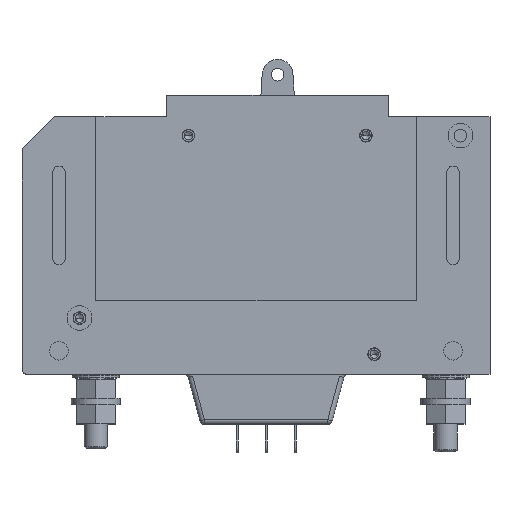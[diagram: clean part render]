
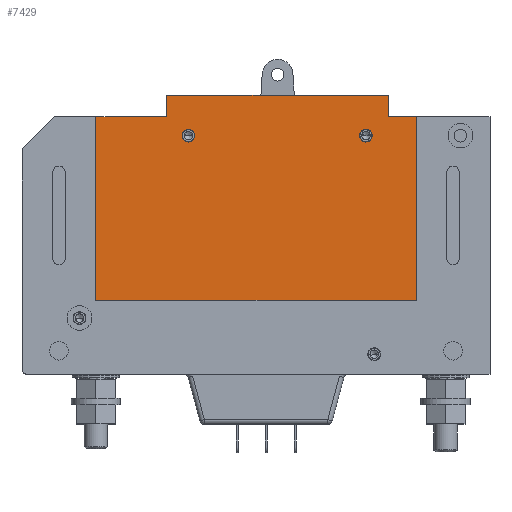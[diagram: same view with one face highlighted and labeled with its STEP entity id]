
A CAD part, top view. The second image highlights one B-rep face of the part: STEP entity #7429.
In plain terms, the highlighted planar face has unit normal (0, 0, 1).
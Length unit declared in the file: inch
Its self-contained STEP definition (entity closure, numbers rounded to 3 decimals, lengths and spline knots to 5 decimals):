
#1347=DIRECTION('',(0.,1.,0.));
#1348=VECTOR('',#1347,1.86);
#1349=CARTESIAN_POINT('',(-1.844,-1.514,0.));
#1350=LINE('',#1349,#1348);
#1351=DIRECTION('',(-1.,0.,0.));
#1352=VECTOR('',#1351,0.719);
#1353=CARTESIAN_POINT('',(-1.125,0.346,0.));
#1354=LINE('',#1353,#1352);
#1355=DIRECTION('',(0.,-1.,0.));
#1356=VECTOR('',#1355,0.22);
#1357=CARTESIAN_POINT('',(-1.125,0.566,0.));
#1358=LINE('',#1357,#1356);
#1359=DIRECTION('',(-1.,0.,0.));
#1360=VECTOR('',#1359,2.25);
#1361=CARTESIAN_POINT('',(1.125,0.566,0.));
#1362=LINE('',#1361,#1360);
#1363=DIRECTION('',(0.,1.,0.));
#1364=VECTOR('',#1363,0.22);
#1365=CARTESIAN_POINT('',(1.125,0.346,0.));
#1366=LINE('',#1365,#1364);
#1367=DIRECTION('',(-1.,0.,0.));
#1368=VECTOR('',#1367,0.281);
#1369=CARTESIAN_POINT('',(1.406,0.346,0.));
#1370=LINE('',#1369,#1368);
#1371=DIRECTION('',(0.,-1.,0.));
#1372=VECTOR('',#1371,1.86);
#1373=CARTESIAN_POINT('',(1.406,0.346,0.));
#1374=LINE('',#1373,#1372);
#1375=DIRECTION('',(-1.,0.,0.));
#1376=VECTOR('',#1375,3.25);
#1377=CARTESIAN_POINT('',(1.406,-1.514,0.));
#1378=LINE('',#1377,#1376);
#1379=CARTESIAN_POINT('',(-0.905,0.156,0.));
#1380=DIRECTION('',(0.,0.,-1.));
#1381=DIRECTION('',(-1.,0.,0.));
#1382=AXIS2_PLACEMENT_3D('',#1379,#1380,#1381);
#1384=CARTESIAN_POINT('',(-0.905,0.156,0.));
#1385=DIRECTION('',(0.,0.,-1.));
#1386=DIRECTION('',(1.,0.,0.));
#1387=AXIS2_PLACEMENT_3D('',#1384,#1385,#1386);
#1389=CARTESIAN_POINT('',(0.897,0.156,0.));
#1390=DIRECTION('',(0.,0.,-1.));
#1391=DIRECTION('',(-1.,0.,0.));
#1392=AXIS2_PLACEMENT_3D('',#1389,#1390,#1391);
#1394=CARTESIAN_POINT('',(0.897,0.156,0.));
#1395=DIRECTION('',(0.,0.,-1.));
#1396=DIRECTION('',(1.,0.,0.));
#1397=AXIS2_PLACEMENT_3D('',#1394,#1395,#1396);
#4402=CARTESIAN_POINT('',(1.125,0.566,0.));
#4403=CARTESIAN_POINT('',(-1.125,0.566,0.));
#4404=VERTEX_POINT('',#4402);
#4405=VERTEX_POINT('',#4403);
#4406=CARTESIAN_POINT('',(1.125,0.346,0.));
#4407=VERTEX_POINT('',#4406);
#4408=CARTESIAN_POINT('',(-1.125,0.346,0.));
#4409=VERTEX_POINT('',#4408);
#4430=CARTESIAN_POINT('',(-0.97,0.156,0.));
#4431=CARTESIAN_POINT('',(-0.84,0.156,0.));
#4432=VERTEX_POINT('',#4430);
#4433=VERTEX_POINT('',#4431);
#4434=CARTESIAN_POINT('',(0.832,0.156,0.));
#4435=CARTESIAN_POINT('',(0.962,0.156,0.));
#4436=VERTEX_POINT('',#4434);
#4437=VERTEX_POINT('',#4435);
#4448=CARTESIAN_POINT('',(-1.844,-1.514,0.));
#4449=CARTESIAN_POINT('',(-1.844,0.346,0.));
#4450=VERTEX_POINT('',#4448);
#4451=VERTEX_POINT('',#4449);
#4452=CARTESIAN_POINT('',(1.406,-1.514,0.));
#4453=VERTEX_POINT('',#4452);
#4454=CARTESIAN_POINT('',(1.406,0.346,0.));
#4455=VERTEX_POINT('',#4454);
#7400=CARTESIAN_POINT('',(0.,0.,0.));
#7401=DIRECTION('',(0.,0.,1.));
#7402=DIRECTION('',(1.,0.,0.));
#7403=AXIS2_PLACEMENT_3D('',#7400,#7401,#7402);
#7404=PLANE('',#7403);
#7405=ORIENTED_EDGE('',*,*,#7391,.T.);
#7406=ORIENTED_EDGE('',*,*,#6604,.F.);
#7407=ORIENTED_EDGE('',*,*,#6585,.F.);
#7408=ORIENTED_EDGE('',*,*,#6552,.F.);
#7409=ORIENTED_EDGE('',*,*,#6537,.F.);
#7410=ORIENTED_EDGE('',*,*,#6516,.F.);
#7412=ORIENTED_EDGE('',*,*,#7411,.T.);
#7414=ORIENTED_EDGE('',*,*,#7413,.T.);
#7415=EDGE_LOOP('',(#7405,#7406,#7407,#7408,#7409,#7410,#7412,#7414));
#7416=FACE_OUTER_BOUND('',#7415,.F.);
#7418=ORIENTED_EDGE('',*,*,#7417,.F.);
#7420=ORIENTED_EDGE('',*,*,#7419,.F.);
#7421=EDGE_LOOP('',(#7418,#7420));
#7422=FACE_BOUND('',#7421,.F.);
#7424=ORIENTED_EDGE('',*,*,#7423,.F.);
#7426=ORIENTED_EDGE('',*,*,#7425,.F.);
#7427=EDGE_LOOP('',(#7424,#7426));
#7428=FACE_BOUND('',#7427,.F.);
#1383=CIRCLE('',#1382,0.065);
#1388=CIRCLE('',#1387,0.065);
#1393=CIRCLE('',#1392,0.065);
#1398=CIRCLE('',#1397,0.065);
#6516=EDGE_CURVE('',#4455,#4407,#1370,.T.);
#6537=EDGE_CURVE('',#4407,#4404,#1366,.T.);
#6552=EDGE_CURVE('',#4404,#4405,#1362,.T.);
#6585=EDGE_CURVE('',#4405,#4409,#1358,.T.);
#6604=EDGE_CURVE('',#4409,#4451,#1354,.T.);
#7391=EDGE_CURVE('',#4450,#4451,#1350,.T.);
#7411=EDGE_CURVE('',#4455,#4453,#1374,.T.);
#7413=EDGE_CURVE('',#4453,#4450,#1378,.T.);
#7417=EDGE_CURVE('',#4432,#4433,#1383,.T.);
#7419=EDGE_CURVE('',#4433,#4432,#1388,.T.);
#7423=EDGE_CURVE('',#4436,#4437,#1393,.T.);
#7425=EDGE_CURVE('',#4437,#4436,#1398,.T.);
#7429=ADVANCED_FACE('',(#7416,#7422,#7428),#7404,.T.);
